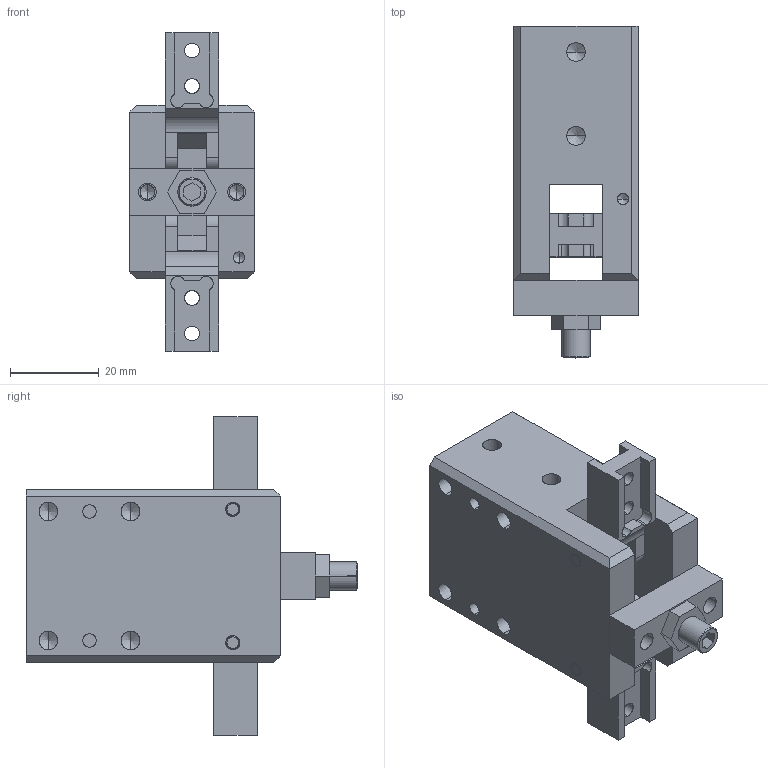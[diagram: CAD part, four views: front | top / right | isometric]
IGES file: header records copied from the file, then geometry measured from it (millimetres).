
Start section: SolidWorks IGES file using analytic representation for surfaces
Global section: file name: E:\AGI Automation\AGA-20\AGA-20 OPEN in IN.IGS; native system: SolidWorks 2013; preprocessor: SolidWorks 2013; author: jmkuhnes; date: 141125.084230; units: inch
Bounding box: 27.99 x 74.6 x 71.6 mm (x, y, z)
Surface area: 18678.7 mm2 (no closed solid volume)
Topology: 0 solids, 0 shells, 236 faces, 3608 edges, 3576 vertices
Faces by surface type: revolution 152, bspline 84
